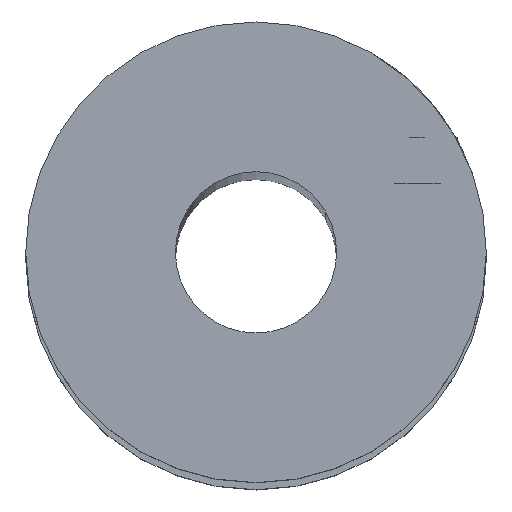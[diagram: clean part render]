
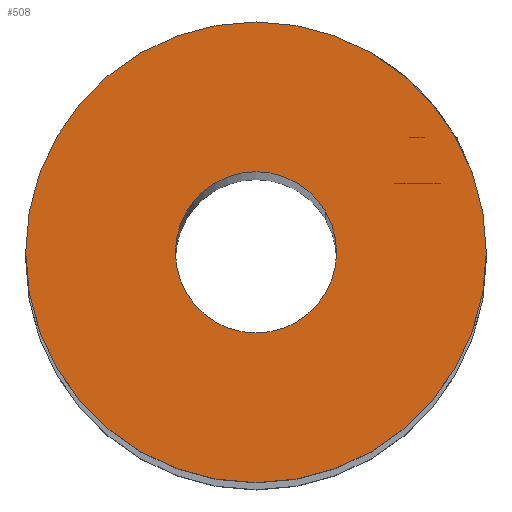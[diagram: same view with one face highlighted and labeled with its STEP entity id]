
A CAD part, top view. The second image highlights one B-rep face of the part: STEP entity #508.
In plain terms, the highlighted planar face has unit normal (0, 0, 1).
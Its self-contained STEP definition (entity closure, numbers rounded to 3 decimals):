
#25 = CIRCLE ( 'NONE', #753, 20. ) ;
#114 = CARTESIAN_POINT ( 'NONE',  ( 450., 0., 596.5 ) ) ;
#131 = DIRECTION ( 'NONE',  ( 0., 0., -1. ) ) ;
#179 = CIRCLE ( 'NONE', #719, 7. ) ;
#234 = CARTESIAN_POINT ( 'NONE',  ( 450., 0., 596.5 ) ) ;
#343 = ORIENTED_EDGE ( 'NONE', *, *, #772, .T. ) ;
#362 = CARTESIAN_POINT ( 'NONE',  ( 460., 0., 596.5 ) ) ;
#363 = CARTESIAN_POINT ( 'NONE',  ( 450., 0., 596.5 ) ) ;
#374 = DIRECTION ( 'NONE',  ( 0., -1., 0. ) ) ;
#404 = CIRCLE ( 'NONE', #1347, 7. ) ;
#466 = CARTESIAN_POINT ( 'NONE',  ( 456.062, 3.5, 596.5 ) ) ;
#476 = PLANE ( 'NONE',  #498 ) ;
#498 = AXIS2_PLACEMENT_3D ( 'NONE', #362, #898, #374 ) ;
#508 = ADVANCED_FACE ( 'NONE', ( #1348, #636 ), #476, .T. ) ;
#511 = VERTEX_POINT ( 'NONE', #466 ) ;
#548 = CARTESIAN_POINT ( 'NONE',  ( 450., 0., 596.5 ) ) ;
#554 = DIRECTION ( 'NONE',  ( 0., -1., 0. ) ) ;
#566 = CIRCLE ( 'NONE', #580, 20. ) ;
#580 = AXIS2_PLACEMENT_3D ( 'NONE', #234, #131, #1303 ) ;
#629 = ORIENTED_EDGE ( 'NONE', *, *, #922, .F. ) ;
#636 = FACE_BOUND ( 'NONE', #882, .T. ) ;
#643 = VERTEX_POINT ( 'NONE', #1364 ) ;
#645 = VERTEX_POINT ( 'NONE', #1043 ) ;
#655 = VERTEX_POINT ( 'NONE', #1147 ) ;
#718 = ORIENTED_EDGE ( 'NONE', *, *, #782, .T. ) ;
#719 = AXIS2_PLACEMENT_3D ( 'NONE', #114, #1172, #1282 ) ;
#753 = AXIS2_PLACEMENT_3D ( 'NONE', #548, #1301, #554 ) ;
#772 = EDGE_CURVE ( 'NONE', #655, #511, #404, .T. ) ;
#782 = EDGE_CURVE ( 'NONE', #511, #655, #179, .T. ) ;
#882 = EDGE_LOOP ( 'NONE', ( #343, #718 ) ) ;
#898 = DIRECTION ( 'NONE',  ( 0., 0., 1. ) ) ;
#911 = EDGE_CURVE ( 'NONE', #645, #643, #566, .T. ) ;
#922 = EDGE_CURVE ( 'NONE', #643, #645, #25, .T. ) ;
#938 = ORIENTED_EDGE ( 'NONE', *, *, #911, .F. ) ;
#1043 = CARTESIAN_POINT ( 'NONE',  ( 450., -20., 596.5 ) ) ;
#1147 = CARTESIAN_POINT ( 'NONE',  ( 443.938, -3.5, 596.5 ) ) ;
#1168 = DIRECTION ( 'NONE',  ( -1., 0., 0. ) ) ;
#1172 = DIRECTION ( 'NONE',  ( 0., 0., -1. ) ) ;
#1282 = DIRECTION ( 'NONE',  ( -1., 0., 0. ) ) ;
#1301 = DIRECTION ( 'NONE',  ( 0., 0., -1. ) ) ;
#1303 = DIRECTION ( 'NONE',  ( 0., -1., 0. ) ) ;
#1322 = EDGE_LOOP ( 'NONE', ( #629, #938 ) ) ;
#1347 = AXIS2_PLACEMENT_3D ( 'NONE', #363, #1386, #1168 ) ;
#1348 = FACE_OUTER_BOUND ( 'NONE', #1322, .T. ) ;
#1364 = CARTESIAN_POINT ( 'NONE',  ( 450., 20., 596.5 ) ) ;
#1386 = DIRECTION ( 'NONE',  ( 0., 0., -1. ) ) ;
